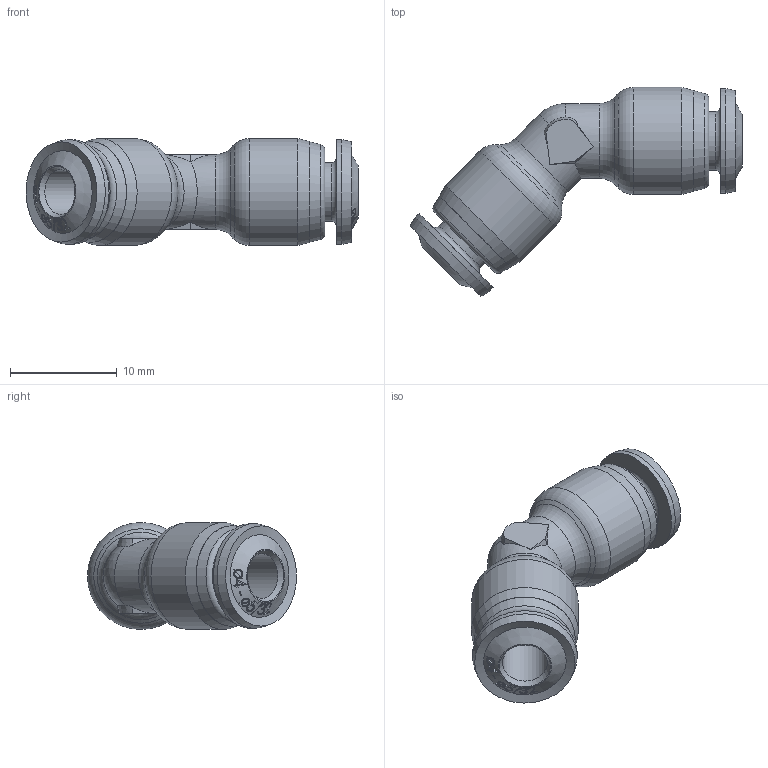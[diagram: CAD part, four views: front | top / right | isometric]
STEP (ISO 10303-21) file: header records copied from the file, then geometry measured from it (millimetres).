
FILE_DESCRIPTION (( 'STEP AP214' ), '1' );
FILE_NAME ('5518000002A.STEP', '2013-10-14T15:07:05', ( 'ST01' ), ( '' ), 'SwSTEP 2.0', 'SolidWorks 2012', '' );
FILE_SCHEMA (( 'AUTOMOTIVE_DESIGN' ));
Length unit declared in the file: millimetre
Products named in the file (1): 5518000002A
Bounding box: 31.06 x 19.56 x 10 mm (x, y, z)
Surface area: 1452.1 mm2 (no closed solid volume)
Topology: 0 solids, 5 shells, 267 faces, 742 edges, 490 vertices
Faces by surface type: bspline 185, cone 40, plane 23, cylinder 10, torus 8, sphere 1
Full cylindrical faces by diameter (mm): 4.2 x2, 5.5 x2, 7 x2, 9.8 x2, 10 x2
Entity records: 18836 total; most frequent: CARTESIAN_POINT 11016, ORIENTED_EDGE 1318, EDGE_CURVE 709, B_SPLINE_CURVE_WITH_KNOTS 627, VERTEX_POINT 489, EDGE_LOOP 334, DIRECTION 286, FACE_OUTER_BOUND 285
